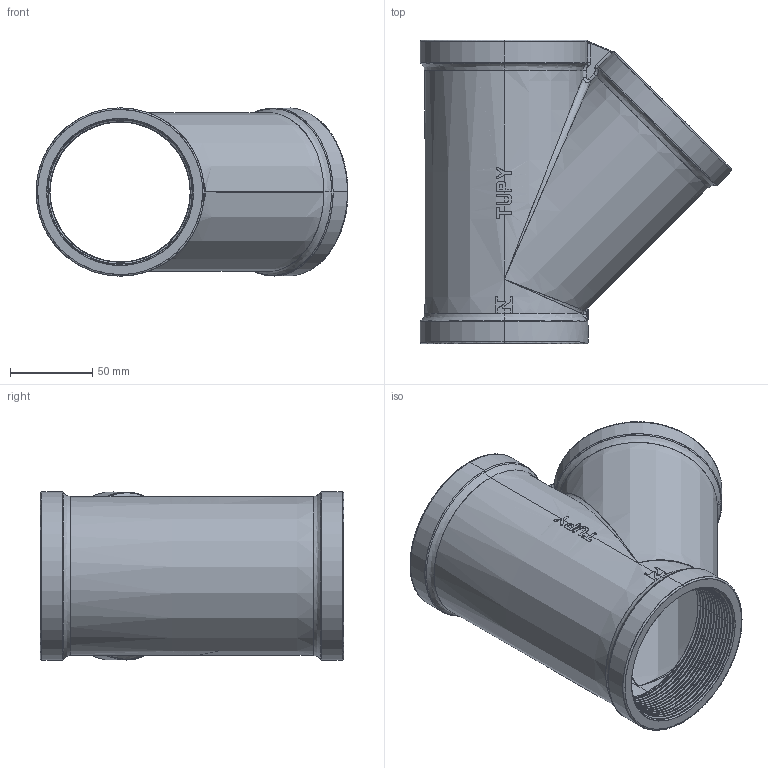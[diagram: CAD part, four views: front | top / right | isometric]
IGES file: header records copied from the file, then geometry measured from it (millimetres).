
Start section: SolidWorks IGES file using analytic representation for surfaces
Global section: file name: C:\Users\Joel Rosa\Desktop\Tubulação\12-54-XXX\12-54-012.IGS; native system: SolidWorks 2011; preprocessor: SolidWorks 2011; author: Joel Rosa; date: 121213.024212; units: millimetre
Bounding box: 189.18 x 184 x 102 mm (x, y, z)
Surface area: 165884.2 mm2 (no closed solid volume)
Topology: 0 solids, 0 shells, 599 faces, 4949 edges, 4941 vertices
Faces by surface type: bspline 388, revolution 211
